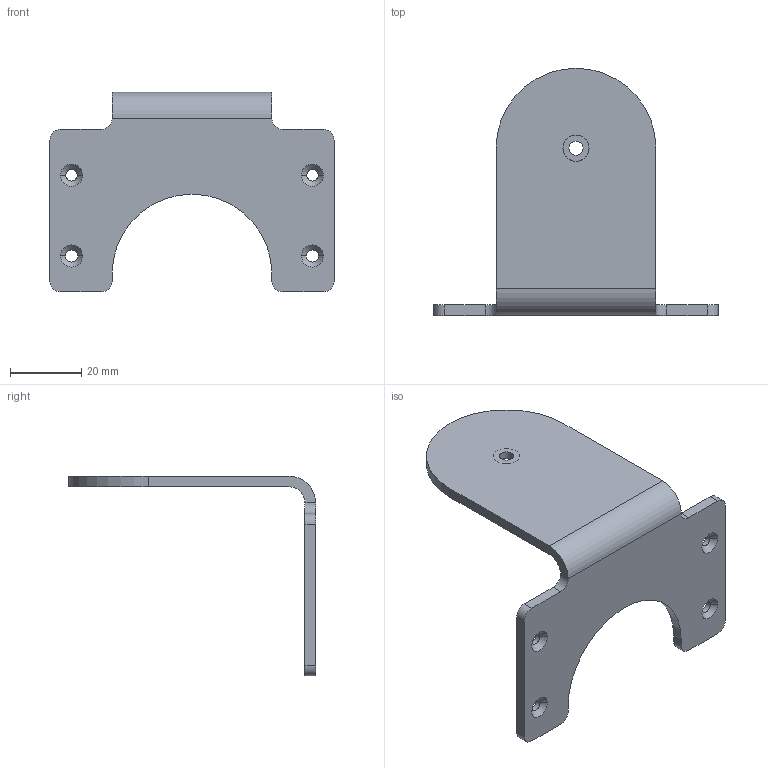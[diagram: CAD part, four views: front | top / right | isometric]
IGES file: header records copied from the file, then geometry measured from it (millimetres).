
Start section:  PTC IGES file: cu_bkt_adapter_crio-9901.igs
Global section: file name: cu_bkt_adapter_crio-9901.igs; native system: Pro/ENGINEER by Parametric Technology Corporation; preprocessor: 2006300; author: chrisj; organization: Unknown; date: 20080924.074058; units: inch
Bounding box: 80 x 69.57 x 56.25 mm (x, y, z)
Surface area: 12905.5 mm2 (no closed solid volume)
Topology: 0 solids, 0 shells, 50 faces, 252 edges, 252 vertices
Faces by surface type: revolution 34, bspline 16
